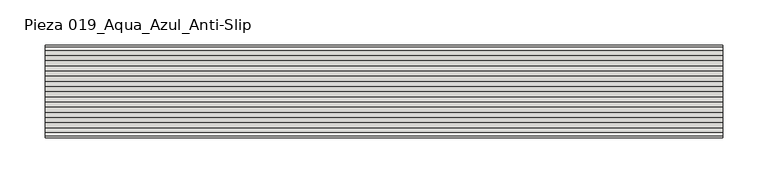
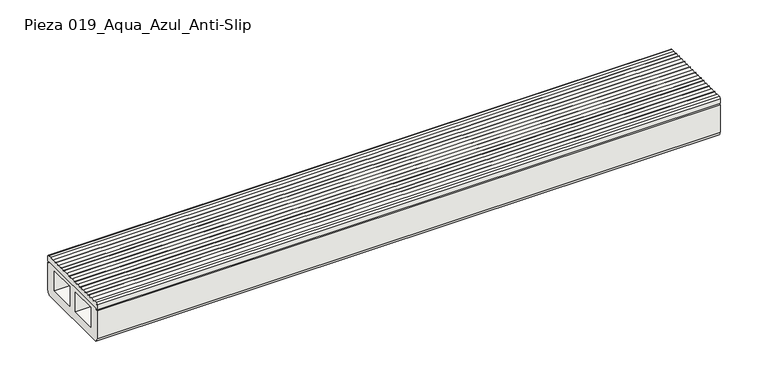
"""IFC4 building model written with IfcOpenShell, lengths in millimetres: slab geometry, ROSA GRES_019 : Pieza 019_Aqua_Azul_Anti-Slip."""

from ifc_helpers import new_model, si_unit, point, frame, frame_2d, origin, place, context, project, spatial, polyline, circle_curve, trimmed, segment, composite_curve, outline, extrude, source, transform, mapped, element, save


def pieza_019_aqua_azul_anti_slip_0c3c7554(model_context):
    return source(origin(), model_context, "Body", "SweptSolid", [
        extrude(outline(composite_curve([segment(polyline([(2.5063138, 42.1085977), (99.7512901, 42.1085977), (99.7512901, 40.6048094), (102.2576039, 40.6048094), (102.2576039, 5.0126276)]), True, "CONTINUOUS"), segment(trimmed(circle_curve(frame_2d((97.2449763, 5.0126276)), 5.0126276), [point((102.2576039, 5.0126276))], [point((97.2449763, 0.0))], False, "CARTESIAN"), True, "CONTINUOUS"), segment(polyline([(97.2449763, 0.0), (5.0126276, 0.0)]), True, "CONTINUOUS"), segment(trimmed(circle_curve(frame_2d((5.0126276, 5.0126276)), 5.0126276), [point((5.0126276, 0.0))], [point((0.0, 5.0126276))], False, "CARTESIAN"), True, "CONTINUOUS"), segment(polyline([(0.0, 5.0126276), (0.0, 40.6048094), (2.5063138, 40.6048094), (2.5063138, 42.1085977)]), True, "CONTINUOUS")], self_intersect=False), holes=[polyline([(45.1136488, 37.0959701), (13.0328319, 37.0959701), (13.0328319, 12.0328319), (45.1136488, 12.0328319), (45.1136488, 37.0959701)]), polyline([(89.2247721, 37.0959701), (57.1439551, 37.0959701), (57.1439551, 12.0328319), (89.2247721, 12.0328319), (89.2247721, 37.0959701)])]), frame((0.0, 0.0, 0.0), z_axis=(1.0, 0.0, 0.0), x_axis=(0.0, 1.0, 0.0)), (0.0, 0.0, 1.0), 750.0),
        extrude(outline(composite_curve([segment(polyline([(102.2576039, 48.1237509), (102.2576039, 42.1085977), (0.0, 42.1085977), (0.0, 48.1237509)]), True, "CONTINUOUS"), segment(trimmed(circle_curve(frame_2d((2.0050511, 48.1237509)), 2.0050511), [point((0.0, 48.1237509))], [point((2.0050511, 50.128802))], False, "CARTESIAN"), True, "CONTINUOUS"), segment(polyline([(2.0050511, 50.128802), (5.7702148, 50.128802)]), True, "CONTINUOUS"), segment(trimmed(circle_curve(frame_2d((8.2451253, 52.6161241)), 3.5088394), [point((5.7702148, 50.128802))], [point((11.1040371, 50.5817748))], True, "CARTESIAN"), True, "CONTINUOUS"), segment(trimmed(circle_curve(frame_2d((13.9629489, 52.6161241)), 3.5088394), [point((11.1040371, 50.5817748))], [point((16.8218607, 50.5817748))], True, "CARTESIAN"), True, "CONTINUOUS"), segment(trimmed(circle_curve(frame_2d((19.6807724, 52.6161241)), 3.5088394), [point((16.8218607, 50.5817748))], [point((22.5396842, 50.5817748))], True, "CARTESIAN"), True, "CONTINUOUS"), segment(trimmed(circle_curve(frame_2d((25.398596, 52.6161241)), 3.5088394), [point((22.5396842, 50.5817748))], [point((28.2575078, 50.5817748))], True, "CARTESIAN"), True, "CONTINUOUS"), segment(trimmed(circle_curve(frame_2d((31.1164195, 52.6161241)), 3.5088394), [point((28.2575078, 50.5817748))], [point((33.9753313, 50.5817748))], True, "CARTESIAN"), True, "CONTINUOUS"), segment(trimmed(circle_curve(frame_2d((36.8342431, 52.6161241)), 3.5088394), [point((33.9753313, 50.5817748))], [point((39.6931549, 50.5817748))], True, "CARTESIAN"), True, "CONTINUOUS"), segment(trimmed(circle_curve(frame_2d((42.5520666, 52.6161241)), 3.5088394), [point((39.6931549, 50.5817748))], [point((45.4109784, 50.5817748))], True, "CARTESIAN"), True, "CONTINUOUS"), segment(trimmed(circle_curve(frame_2d((48.2698902, 52.6161241)), 3.5088394), [point((45.4109784, 50.5817748))], [point((51.128802, 50.5817748))], True, "CARTESIAN"), True, "CONTINUOUS"), segment(trimmed(circle_curve(frame_2d((53.9877138, 52.6161241)), 3.5088394), [point((51.128802, 50.5817748))], [point((56.8466255, 50.5817748))], True, "CARTESIAN"), True, "CONTINUOUS"), segment(trimmed(circle_curve(frame_2d((59.7055373, 52.6161241)), 3.5088394), [point((56.8466255, 50.5817748))], [point((62.5644491, 50.5817748))], True, "CARTESIAN"), True, "CONTINUOUS"), segment(trimmed(circle_curve(frame_2d((65.4233609, 52.6161241)), 3.5088394), [point((62.5644491, 50.5817748))], [point((68.2822726, 50.5817748))], True, "CARTESIAN"), True, "CONTINUOUS"), segment(trimmed(circle_curve(frame_2d((71.1411844, 52.6161241)), 3.5088394), [point((68.2822726, 50.5817748))], [point((74.0000962, 50.5817748))], True, "CARTESIAN"), True, "CONTINUOUS"), segment(trimmed(circle_curve(frame_2d((76.859008, 52.6161241)), 3.5088394), [point((74.0000962, 50.5817748))], [point((79.7179197, 50.5817748))], True, "CARTESIAN"), True, "CONTINUOUS"), segment(trimmed(circle_curve(frame_2d((82.5768315, 52.6161241)), 3.5088394), [point((79.7179197, 50.5817748))], [point((85.4357433, 50.5817748))], True, "CARTESIAN"), True, "CONTINUOUS"), segment(trimmed(circle_curve(frame_2d((88.2946551, 52.6161241)), 3.5088394), [point((85.4357433, 50.5817748))], [point((91.1535668, 50.5817748))], True, "CARTESIAN"), True, "CONTINUOUS"), segment(trimmed(circle_curve(frame_2d((94.0124786, 52.6161241)), 3.5088394), [point((91.1535668, 50.5817748))], [point((96.4873892, 50.128802))], True, "CARTESIAN"), True, "CONTINUOUS"), segment(polyline([(96.4873892, 50.128802), (100.2525529, 50.128802)]), True, "CONTINUOUS"), segment(trimmed(circle_curve(frame_2d((100.2525529, 48.1237509)), 2.0050511), [point((100.2525529, 50.128802))], [point((102.2576039, 48.1237509))], False, "CARTESIAN"), True, "CONTINUOUS")], self_intersect=False)), frame((0.0, 0.0, 0.0), z_axis=(1.0, 0.0, 0.0), x_axis=(0.0, 1.0, 0.0)), (0.0, 0.0, 1.0), 750.0),
    ])


if __name__ == "__main__":
    model = new_model("IFC4")
    model_context = context("Model", 3, world=origin())
    ifc_project = project(units=[si_unit("LENGTHUNIT", "METRE", prefix="MILLI")], contexts=[model_context])
    site = spatial("IfcSite", under=ifc_project)
    building = spatial("IfcBuilding", under=site)
    placement = place(None, origin())
    pieza_019_aqua_azul_anti_slip_shape = pieza_019_aqua_azul_anti_slip_0c3c7554(model_context)
    element("IfcSlab", 1, ObjectType="ROSA GRES_019 : Pieza 019_Aqua_Azul_Anti-Slip", at=placement, inside=building, context=model_context, shape_type="MappedRepresentation", body=[
        mapped(pieza_019_aqua_azul_anti_slip_shape, transform((0.0, 0.0, 0.0), x_axis=(1.0, 0.0, 0.0), y_axis=(0.0, 1.0, 0.0), z_axis=(0.0, 0.0, 1.0))),
    ])
    save(model, "model.ifc")
